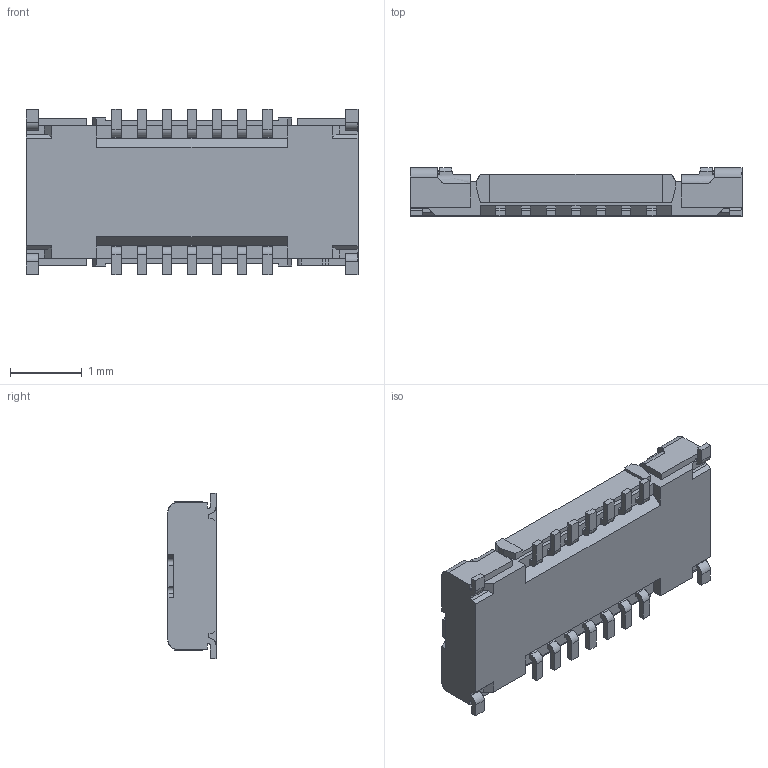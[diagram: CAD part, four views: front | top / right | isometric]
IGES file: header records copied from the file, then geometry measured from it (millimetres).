
Start section: SolidWorks IGES file using analytic representation for surfaces
Global section: file name: _exported\20709-014E-01C RECEPTACLE ASSY IGES R2 ALL.IGS; native system: SolidWorks 2023; preprocessor: SolidWorks 2023; author: 83197; date: 250228.173415; units: millimetre
Bounding box: 4.62 x 0.67 x 2.3 mm (x, y, z)
Surface area: 37 mm2 (no closed solid volume)
Topology: 0 solids, 0 shells, 398 faces, 2564 edges, 2560 vertices
Faces by surface type: bspline 306, revolution 92
